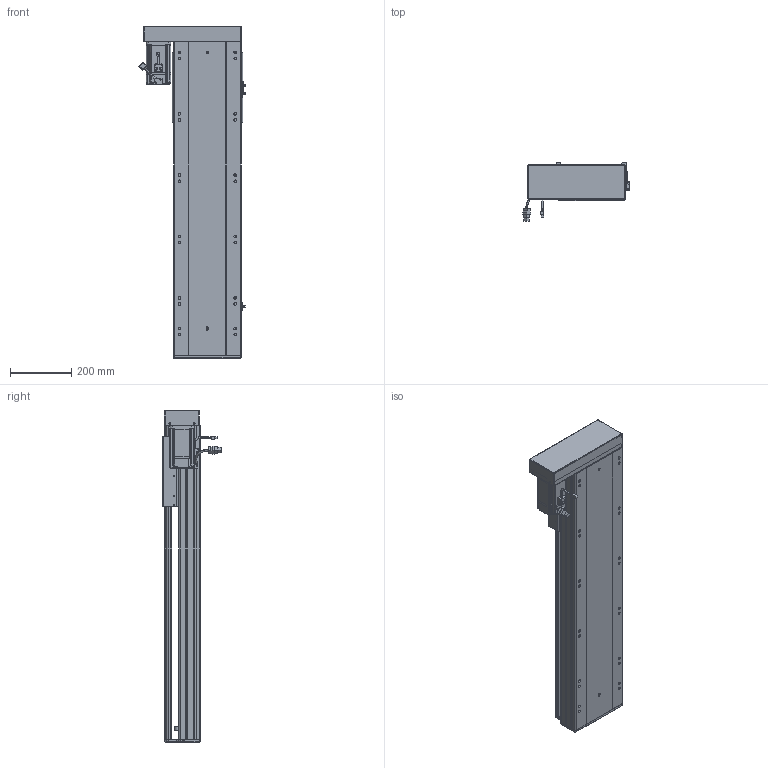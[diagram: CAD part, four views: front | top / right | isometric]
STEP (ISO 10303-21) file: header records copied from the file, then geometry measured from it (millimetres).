
FILE_DESCRIPTION (( 'STEP AP203' ), '1' );
FILE_NAME ('RY220-L2525-300-LK.SLDASM_700.step', '2022-07-04T01:46:42', ( '' ), ( '' ), 'SwSTEP 2.0', 'SolidWorks 2016', '' );
FILE_SCHEMA (( 'CONFIG_CONTROL_DESIGN' ));
Length unit declared in the file: millimetre
Products named in the file (12): RY220-L2525-300-LK.SLDASM_700; RY220-俋离672覜茼んえ; RY220蛌殏菁釱-300_700; 滅袉蝶18-10; 覜茼ん672; RY220綴裔啣; RY220半封闭25-32螺母铝滑块; 怢湛750W_ECMA-CX0807ES; 滅袉蝶18-15; RY220-300-蛌殏奻裔啣_700; RY220酘衵殏萇儂欶; RY220左右折电机安装板
Assembly tree (15 placements, depth 2):
  RY220-L2525-300-LK.SLDASM_700
    RY220蛌殏菁釱-300_700
    RY220-300-蛌殏奻裔啣_700
    怢湛750W_ECMA-CX0807ES
    滅袉蝶18-10  x2
    RY220-俋离672覜茼んえ
    覜茼ん672  x3
    RY220綴裔啣
    RY220半封闭25-32螺母铝滑块
    滅袉蝶18-15  x2
    RY220左右折电机安装板
    RY220酘衵殏萇儂欶
Bounding box: 347.44 x 189.27 x 1082 mm (x, y, z)
Volume: 9618242.7 mm3; surface area: 2744492.2 mm2
Topology: 16 solids, 16 shells, 2085 faces, 5752 edges, 3653 vertices
Faces by surface type: cylinder 925, plane 896, cone 194, bspline 44, sphere 16, torus 10
Entity records: 68877 total; most frequent: CARTESIAN_POINT 20121, ORIENTED_EDGE 10144, DIRECTION 9464, EDGE_CURVE 5072, VERTEX_POINT 3309, AXIS2_PLACEMENT_3D 3303, LINE 2858, VECTOR 2858
